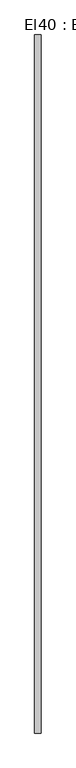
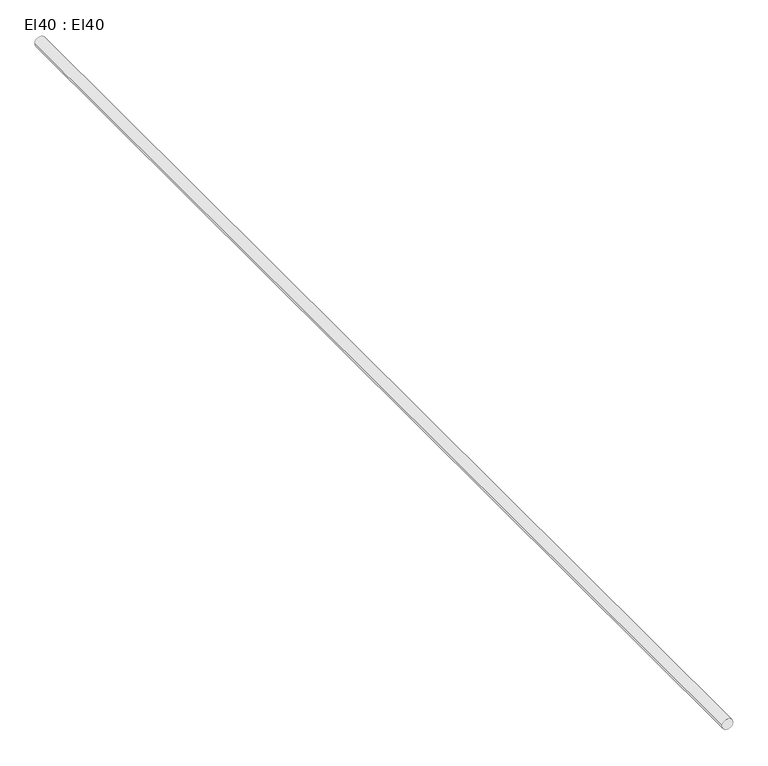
"""IFC4 building model written with IfcOpenShell, lengths in millimetres: cable carrier segment geometry, El40 : El40."""

from ifc_helpers import new_model, si_unit, point, frame, frame_2d, origin, place, context, project, spatial, circle_curve, trimmed, segment, composite_curve, outline, extrude, source, transform, mapped, element, save


def el40_el40_52f66133(model_context):
    return source(origin(), model_context, "Body", "SweptSolid", [
        extrude(outline(composite_curve([segment(trimmed(circle_curve(frame_2d((2950.0, 12087.5)), 9.5), [point((2950.0, 12078.0))], [point((2950.0, 12097.0))], False, "CARTESIAN"), True, "CONTINUOUS"), segment(trimmed(circle_curve(frame_2d((2950.0, 12087.5)), 9.5), [point((2950.0, 12097.0))], [point((2950.0, 12078.0))], False, "CARTESIAN"), True, "CONTINUOUS")], self_intersect=False)), frame((0.0, 16623.2, 0.0), z_axis=(0.0, 1.0, 0.0), x_axis=(0.0, 0.0, 1.0)), (0.0, 0.0, 1.0), 2100.0),
    ])


if __name__ == "__main__":
    model = new_model("IFC4")
    model_context = context("Model", 3, world=origin())
    ifc_project = project(units=[si_unit("LENGTHUNIT", "METRE", prefix="MILLI")], contexts=[model_context])
    site = spatial("IfcSite", under=ifc_project)
    building = spatial("IfcBuilding", under=site)
    placement = place(None, origin())
    el40_el40_shape = el40_el40_52f66133(model_context)
    element("IfcCableCarrierSegment", 1, ObjectType="El40 : El40", at=placement, inside=building, context=model_context, shape_type="MappedRepresentation", body=[
        mapped(el40_el40_shape, transform((0.0, 0.0, 0.0), x_axis=(1.0, 0.0, 0.0), y_axis=(0.0, 1.0, 0.0), z_axis=(0.0, 0.0, 1.0))),
    ])
    save(model, "model.ifc")
